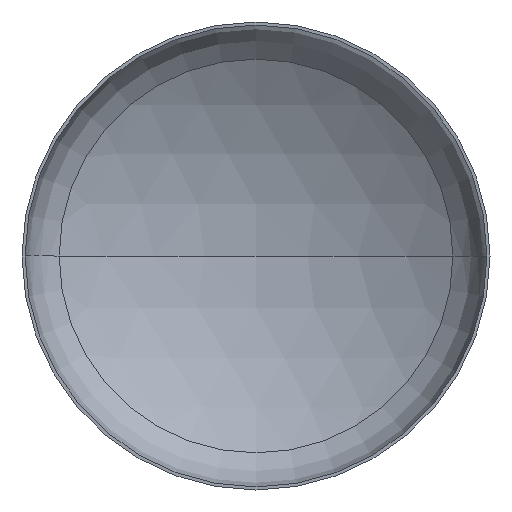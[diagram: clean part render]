
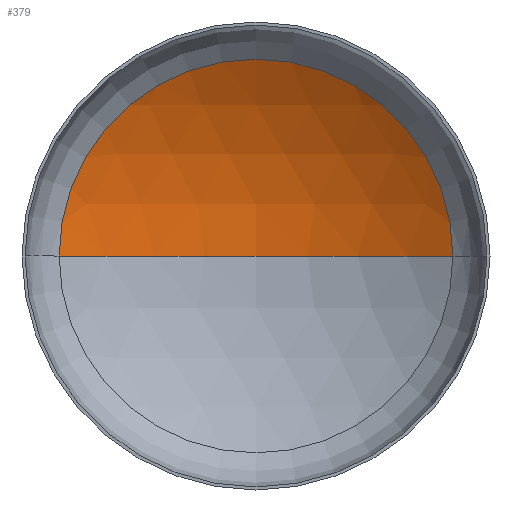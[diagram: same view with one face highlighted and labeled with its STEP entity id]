
A CAD part, front view. The second image highlights one B-rep face of the part: STEP entity #379.
In plain terms, the highlighted spherical face has radius 480 mm.
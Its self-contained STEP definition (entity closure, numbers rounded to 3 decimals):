
#13 = EDGE_LOOP ( 'NONE', ( #24, #18, #98 ) ) ;
#18 = ORIENTED_EDGE ( 'NONE', *, *, #153, .T. ) ;
#21 = VERTEX_POINT ( 'NONE', #286 ) ;
#23 = CARTESIAN_POINT ( 'NONE',  ( 0., -310.042, 0. ) ) ;
#24 = ORIENTED_EDGE ( 'NONE', *, *, #158, .F. ) ;
#26 = VERTEX_POINT ( 'NONE', #247 ) ;
#34 = DIRECTION ( 'NONE',  ( 1., 0., 0. ) ) ;
#84 = AXIS2_PLACEMENT_3D ( 'NONE', #385, #194, #203 ) ;
#86 = AXIS2_PLACEMENT_3D ( 'NONE', #157, #411, #364 ) ;
#92 = AXIS2_PLACEMENT_3D ( 'NONE', #155, #367, #34 ) ;
#98 = ORIENTED_EDGE ( 'NONE', *, *, #152, .T. ) ;
#104 = CIRCLE ( 'NONE', #84, 480. ) ;
#106 = VERTEX_POINT ( 'NONE', #233 ) ;
#152 = EDGE_CURVE ( 'NONE', #106, #26, #373, .T. ) ;
#153 = EDGE_CURVE ( 'NONE', #21, #106, #196, .T. ) ;
#155 = CARTESIAN_POINT ( 'NONE',  ( 0., 98.257, 0. ) ) ;
#157 = CARTESIAN_POINT ( 'NONE',  ( 0., -310.042, 0. ) ) ;
#158 = EDGE_CURVE ( 'NONE', #21, #26, #104, .T. ) ;
#194 = DIRECTION ( 'NONE',  ( 0., 0., 1. ) ) ;
#196 = CIRCLE ( 'NONE', #86, 480. ) ;
#203 = DIRECTION ( 'NONE',  ( 1., 0., 0. ) ) ;
#233 = CARTESIAN_POINT ( 'NONE',  ( 252.371, 98.257, 0. ) ) ;
#247 = CARTESIAN_POINT ( 'NONE',  ( -252.371, 98.257, 0. ) ) ;
#273 = SPHERICAL_SURFACE ( 'NONE', #401, 480. ) ;
#286 = CARTESIAN_POINT ( 'NONE',  ( 0., 169.958, 0. ) ) ;
#364 = DIRECTION ( 'NONE',  ( -1., 0., 0. ) ) ;
#367 = DIRECTION ( 'NONE',  ( 0., -1., 0. ) ) ;
#369 = DIRECTION ( 'NONE',  ( -1., 0., 0. ) ) ;
#373 = CIRCLE ( 'NONE', #92, 252.371 ) ;
#379 = ADVANCED_FACE ( 'NONE', ( #388 ), #273, .F. ) ;
#385 = CARTESIAN_POINT ( 'NONE',  ( 0., -310.042, 0. ) ) ;
#388 = FACE_OUTER_BOUND ( 'NONE', #13, .T. ) ;
#391 = DIRECTION ( 'NONE',  ( 0., 0., -1. ) ) ;
#401 = AXIS2_PLACEMENT_3D ( 'NONE', #23, #391, #369 ) ;
#411 = DIRECTION ( 'NONE',  ( 0., 0., -1. ) ) ;
